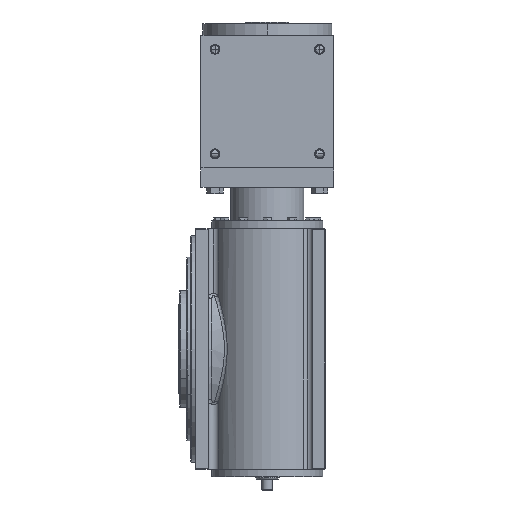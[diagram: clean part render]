
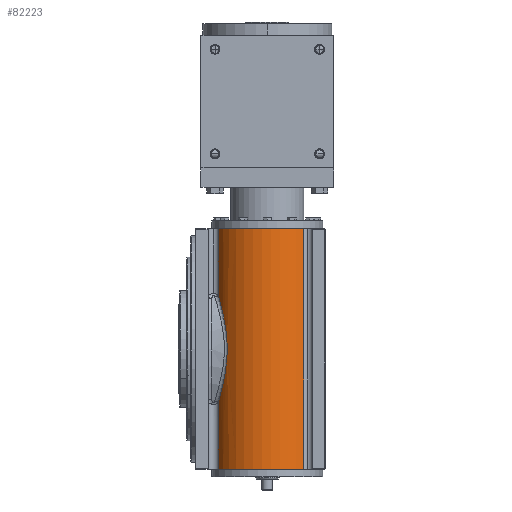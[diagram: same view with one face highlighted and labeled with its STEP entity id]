
A CAD part, left-side view. The second image highlights one B-rep face of the part: STEP entity #82223.
In plain terms, the highlighted cylindrical face has radius 71 mm (diameter 142 mm), a partial arc.
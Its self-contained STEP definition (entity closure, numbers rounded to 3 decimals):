
#1991 = CARTESIAN_POINT ( 'NONE',  ( -128.109, 136.808, 68.859 ) ) ;
#3327 = CARTESIAN_POINT ( 'NONE',  ( -136.93, 131.346, -47.157 ) ) ;
#3685 = DIRECTION ( 'NONE',  ( 0., 0., -1. ) ) ;
#3764 = CARTESIAN_POINT ( 'NONE',  ( -130.725, 135.429, 63.555 ) ) ;
#4211 = DIRECTION ( 'NONE',  ( 0., 0., 1. ) ) ;
#4661 = CARTESIAN_POINT ( 'NONE',  ( -141.962, 127.251, -25.6 ) ) ;
#5445 = AXIS2_PLACEMENT_3D ( 'NONE', #84800, #26554, #27473 ) ;
#9784 = CARTESIAN_POINT ( 'NONE',  ( -143.713, 125.653, 10.36 ) ) ;
#10256 = CARTESIAN_POINT ( 'NONE',  ( -143.607, 125.753, 11.865 ) ) ;
#10776 = CARTESIAN_POINT ( 'NONE',  ( -148.721, 27.577, -154. ) ) ;
#11163 = CARTESIAN_POINT ( 'NONE',  ( -135.977, 131.984, 49.755 ) ) ;
#11615 = CARTESIAN_POINT ( 'NONE',  ( -142.199, 127.041, -24.119 ) ) ;
#11849 = CARTESIAN_POINT ( 'NONE',  ( -128.109, 136.808, 154. ) ) ;
#15736 = EDGE_CURVE ( 'NONE', #43669, #49025, #18286, .T. ) ;
#16593 = AXIS2_PLACEMENT_3D ( 'NONE', #64392, #49454, #71791 ) ;
#17758 = ORIENTED_EDGE ( 'NONE', *, *, #60994, .T. ) ;
#18286 = B_SPLINE_CURVE_WITH_KNOTS ( 'NONE', 3,
 ( #67579, #3764, #52641, #61058, #11163, #89447, #61508, #26043, #32175, #25600, #59665, #54028, #68494, #10256, #9784, #82418, #18614, #60109, #45675, #75441, #38678, #11615, #4661, #89881, #67146, #80608, #3327, #31719, #82873, #77730 ),
 .UNSPECIFIED., .F., .F.,
 ( 4, 2, 2, 2, 2, 2, 2, 2, 2, 2, 2, 2, 2, 2, 4 ),
 ( 0., 0.018, 0.023, 0.027, 0.036, 0.055, 0.059, 0.064, 0.073, 0.091, 0.095, 0.1, 0.109, 0.127, 0.145 ),
 .UNSPECIFIED. ) ;
#18614 = CARTESIAN_POINT ( 'NONE',  ( -144.049, 125.334, 2.839 ) ) ;
#19126 = FACE_OUTER_BOUND ( 'NONE', #56720, .T. ) ;
#21475 = CARTESIAN_POINT ( 'NONE',  ( -128.109, 136.808, -500000. ) ) ;
#22369 = ORIENTED_EDGE ( 'NONE', *, *, #28186, .F. ) ;
#23250 = CARTESIAN_POINT ( 'NONE',  ( -128.109, 136.808, -154. ) ) ;
#24221 = DIRECTION ( 'NONE',  ( 1., 0., 0. ) ) ;
#25600 = CARTESIAN_POINT ( 'NONE',  ( -141.327, 127.831, 29.758 ) ) ;
#26043 = CARTESIAN_POINT ( 'NONE',  ( -138.57, 130.069, 41.275 ) ) ;
#26554 = DIRECTION ( 'NONE',  ( 0., 0., 1. ) ) ;
#27473 = DIRECTION ( 'NONE',  ( 1., 0., 0. ) ) ;
#28186 = EDGE_CURVE ( 'NONE', #43669, #29914, #78280, .T. ) ;
#29914 = VERTEX_POINT ( 'NONE', #11849 ) ;
#31719 = CARTESIAN_POINT ( 'NONE',  ( -132.999, 134.023, -58.167 ) ) ;
#32175 = CARTESIAN_POINT ( 'NONE',  ( -139.32, 129.475, 38.415 ) ) ;
#33416 = AXIS2_PLACEMENT_3D ( 'NONE', #73599, #52155, #24221 ) ;
#34829 = VERTEX_POINT ( 'NONE', #10776 ) ;
#35659 = EDGE_CURVE ( 'NONE', #29914, #49412, #66174, .T. ) ;
#36944 = EDGE_CURVE ( 'NONE', #49025, #62784, #39022, .T. ) ;
#38678 = CARTESIAN_POINT ( 'NONE',  ( -142.631, 126.653, -21.138 ) ) ;
#39022 = LINE ( 'NONE', #67495, #91596 ) ;
#43004 = ORIENTED_EDGE ( 'NONE', *, *, #35659, .F. ) ;
#43669 = VERTEX_POINT ( 'NONE', #1991 ) ;
#43919 = ORIENTED_EDGE ( 'NONE', *, *, #92065, .T. ) ;
#45675 = CARTESIAN_POINT ( 'NONE',  ( -143.692, 125.681, -12.164 ) ) ;
#47533 = CYLINDRICAL_SURFACE ( 'NONE', #5445, 71. ) ;
#49025 = VERTEX_POINT ( 'NONE', #49557 ) ;
#49412 = VERTEX_POINT ( 'NONE', #59830 ) ;
#49454 = DIRECTION ( 'NONE',  ( 0., 0., 1. ) ) ;
#49557 = CARTESIAN_POINT ( 'NONE',  ( -128.109, 136.808, -68.859 ) ) ;
#52155 = DIRECTION ( 'NONE',  ( 0., 0., 1. ) ) ;
#52641 = CARTESIAN_POINT ( 'NONE',  ( -133.018, 134.012, 58.125 ) ) ;
#53826 = CIRCLE ( 'NONE', #16593, 71. ) ;
#54028 = CARTESIAN_POINT ( 'NONE',  ( -143.2, 126.132, 16.387 ) ) ;
#56720 = EDGE_LOOP ( 'NONE', ( #22369, #84997, #68158, #43919, #17758, #43004 ) ) ;
#58355 = VECTOR ( 'NONE', #64835, 1000. ) ;
#59665 = CARTESIAN_POINT ( 'NONE',  ( -142.345, 126.918, 23.884 ) ) ;
#59830 = CARTESIAN_POINT ( 'NONE',  ( -148.721, 27.577, 154. ) ) ;
#60109 = CARTESIAN_POINT ( 'NONE',  ( -144.04, 125.343, -6.17 ) ) ;
#60994 = EDGE_CURVE ( 'NONE', #34829, #49412, #88542, .T. ) ;
#61058 = CARTESIAN_POINT ( 'NONE',  ( -135.5, 132.319, 51.157 ) ) ;
#61508 = CARTESIAN_POINT ( 'NONE',  ( -137.325, 131.008, 45.529 ) ) ;
#62784 = VERTEX_POINT ( 'NONE', #23250 ) ;
#64392 = CARTESIAN_POINT ( 'NONE',  ( -95., 74., -154. ) ) ;
#64835 = DIRECTION ( 'NONE',  ( 0., 0., 1. ) ) ;
#66174 = CIRCLE ( 'NONE', #33416, 71. ) ;
#67146 = CARTESIAN_POINT ( 'NONE',  ( -140.598, 128.429, -32.922 ) ) ;
#67495 = CARTESIAN_POINT ( 'NONE',  ( -128.109, 136.808, 500000. ) ) ;
#67579 = CARTESIAN_POINT ( 'NONE',  ( -128.109, 136.808, 68.859 ) ) ;
#68158 = ORIENTED_EDGE ( 'NONE', *, *, #36944, .T. ) ;
#68494 = CARTESIAN_POINT ( 'NONE',  ( -143.351, 125.993, 14.878 ) ) ;
#71791 = DIRECTION ( 'NONE',  ( 1., 0., 0. ) ) ;
#73599 = CARTESIAN_POINT ( 'NONE',  ( -95., 74., 154. ) ) ;
#75441 = CARTESIAN_POINT ( 'NONE',  ( -142.826, 126.476, -19.641 ) ) ;
#77730 = CARTESIAN_POINT ( 'NONE',  ( -128.109, 136.808, -68.859 ) ) ;
#78280 = LINE ( 'NONE', #21475, #58355 ) ;
#80608 = CARTESIAN_POINT ( 'NONE',  ( -138.584, 130.076, -41.542 ) ) ;
#81977 = CARTESIAN_POINT ( 'NONE',  ( -148.721, 27.577, -154. ) ) ;
#82223 = ADVANCED_FACE ( 'NONE', ( #19126 ), #47533, .T. ) ;
#82418 = CARTESIAN_POINT ( 'NONE',  ( -143.967, 125.413, 5.846 ) ) ;
#82873 = CARTESIAN_POINT ( 'NONE',  ( -130.722, 135.43, -63.561 ) ) ;
#83048 = VECTOR ( 'NONE', #4211, 1000. ) ;
#84800 = CARTESIAN_POINT ( 'NONE',  ( -95., 74., -154. ) ) ;
#84997 = ORIENTED_EDGE ( 'NONE', *, *, #15736, .T. ) ;
#88542 = LINE ( 'NONE', #81977, #83048 ) ;
#89447 = CARTESIAN_POINT ( 'NONE',  ( -136.889, 131.329, 46.942 ) ) ;
#89881 = CARTESIAN_POINT ( 'NONE',  ( -141.192, 127.924, -30.015 ) ) ;
#91596 = VECTOR ( 'NONE', #3685, 1000. ) ;
#92065 = EDGE_CURVE ( 'NONE', #62784, #34829, #53826, .T. ) ;
